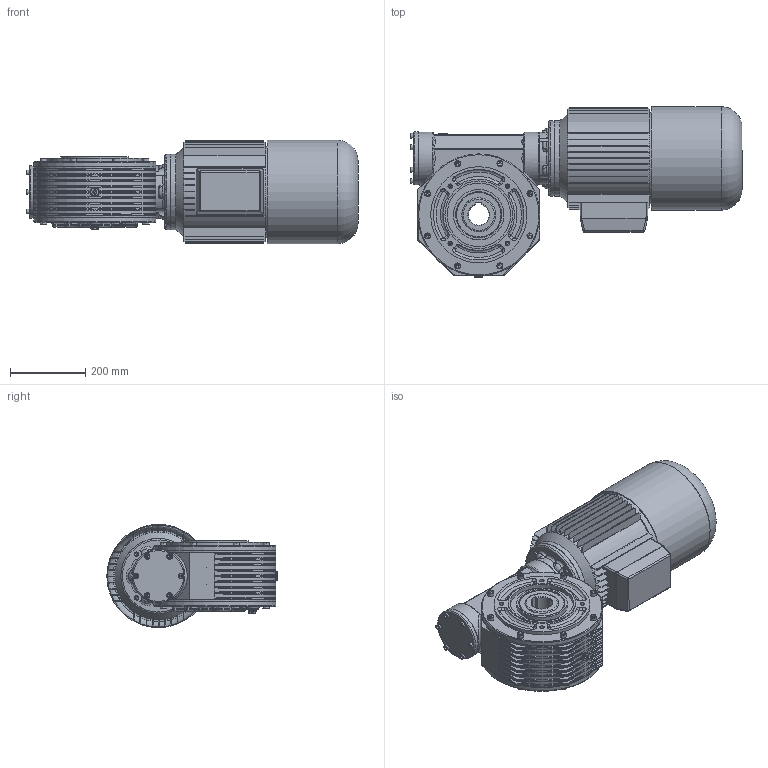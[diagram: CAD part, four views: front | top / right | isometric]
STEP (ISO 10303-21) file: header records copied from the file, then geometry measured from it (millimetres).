
FILE_DESCRIPTION((''),'2;1');
FILE_NAME('Y:\Archivi Inventor\Prog_01\GRAND_70\complessivi\Figurini\mrv70 sito\132s autofrenante\MRV70_FP2_132S_B14.stp','2013-02-08T15:33:19',('tech3'),(''),'Autodesk Inventor 2013','Autodesk Inventor 2013','');
FILE_SCHEMA(('AUTOMOTIVE_DESIGN { 1 0 10303 214 1 1 1 1 }'));
Length unit declared in the file: millimetre
Products named in the file (19): MRV70_132S_132M_B14; MRV70 figurino; 0107001-A0 figurino; 0107008.A0 figurino; 0107029; 0107009; 0107028; DIN 3760 AS AS - 90 x 120 x 12 - NBR; UNI 8839 A 8; Guarnizione 3_8 GAS; Tappo 3_8 GAS_esagn_incsst; DIN EN ISO 4762 M8 x 20; DIN EN 24017 M10 x 20; Tappo3_8 GAS; 0107002-A0-FIG; DIN EN ISO 4762 M10 x 20; 0107004-A0-FIG; 0107006; motori B14 brake 132S
Assembly tree (54 placements, depth 3):
  MRV70_132S_132M_B14
    MRV70 figurino
      0107001-A0 figurino
      0107008.A0 figurino
      0107029  x2
      0107009
      0107028  x2
      DIN 3760 AS AS - 90 x 120 x 12 - NBR  x2
      UNI 8839 A 8  x6
      Guarnizione 3_8 GAS  x3
      Tappo 3_8 GAS_esagn_incsst  x2
      DIN EN ISO 4762 M8 x 20  x6
      DIN EN 24017 M10 x 20  x8
      Tappo3_8 GAS
      0107002-A0-FIG
      DIN EN ISO 4762 M10 x 20  x8
      0107004-A0-FIG
    0107006
    DIN EN ISO 4762 M8 x 20  x6
    motori B14 brake 132S
Bounding box: 883.4 x 453.49 x 274.99 mm (x, y, z)
Volume: 31478138.7 mm3; surface area: 2444095.7 mm2
Topology: 54 solids, 54 shells, 2098 faces, 5066 edges, 3054 vertices
Faces by surface type: plane 889, cylinder 613, torus 215, bspline 209, cone 161, sphere 11
Full cylindrical faces by diameter (mm): 2 x2, 5 x1, 6.647 x12, 8 x14, 8.376 x20, 8.5 x24, 10 x16, 10.5 x16, 11 x16, 11.5 x4, 11.835 x4, 13 x12, 13.046 x1, 14.63 x8, 14.95 x3, 16 x8, 16.3 x3, 16.5 x2, 20 x6, 22 x6, 24 x10, 25 x1, 38 x1, 61 x1, 75 x1, 90 x4, 97.2 x2, 100 x6, 114 x2, 120 x4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
Entity records: 57042 total; most frequent: CARTESIAN_POINT 20008, DIRECTION 7682, ORIENTED_EDGE 7126, EDGE_CURVE 3563, AXIS2_PLACEMENT_3D 3144, VERTEX_POINT 2300, EDGE_LOOP 2007, CIRCLE 1657
